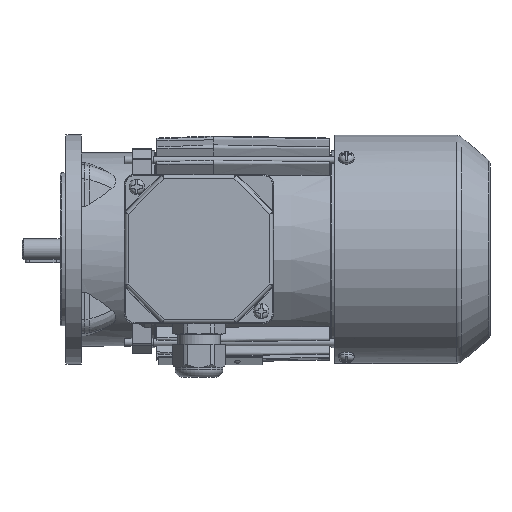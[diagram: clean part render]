
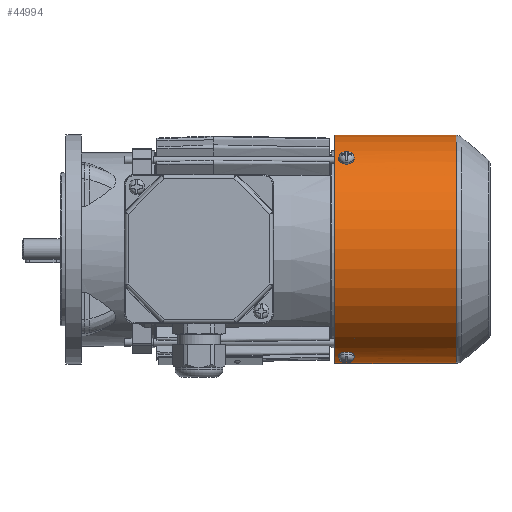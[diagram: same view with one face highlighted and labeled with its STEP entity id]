
A CAD part, top view. The second image highlights one B-rep face of the part: STEP entity #44994.
In plain terms, the highlighted cylindrical face has radius 59.6 mm (diameter 119.2 mm), a full revolution.
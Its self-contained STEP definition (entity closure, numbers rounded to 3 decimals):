
#1020=CYLINDRICAL_SURFACE('',#47692,59.6);
#1490=B_SPLINE_CURVE_WITH_KNOTS('',3,(#67461,#67462,#67463,#67464,#67465,
#67466,#67467),.UNSPECIFIED.,.F.,.F.,(4,1,1,1,4),(0.,
0.002,0.004,0.006,0.007),
 .UNSPECIFIED.);
#1491=B_SPLINE_CURVE_WITH_KNOTS('',3,(#67469,#67470,#67471,#67472,#67473,
#67474,#67475),.UNSPECIFIED.,.F.,.F.,(4,1,1,1,4),(0.,
0.002,0.004,0.006,0.007),
 .UNSPECIFIED.);
#1492=B_SPLINE_CURVE_WITH_KNOTS('',3,(#67481,#67482,#67483,#67484,#67485,
#67486,#67487),.UNSPECIFIED.,.F.,.F.,(4,1,1,1,4),(0.,0.002,
0.004,0.006,0.008),
 .UNSPECIFIED.);
#1493=B_SPLINE_CURVE_WITH_KNOTS('',3,(#67495,#67496,#67497,#67498,#67499,
#67500,#67501),.UNSPECIFIED.,.F.,.F.,(4,1,1,1,4),(0.,
0.002,0.004,0.006,0.008),
 .UNSPECIFIED.);
#1494=B_SPLINE_CURVE_WITH_KNOTS('',3,(#67512,#67513,#67514,#67515,#67516,
#67517,#67518),.UNSPECIFIED.,.F.,.F.,(4,1,1,1,4),(0.,0.002,
0.004,0.006,0.008),
 .UNSPECIFIED.);
#1495=B_SPLINE_CURVE_WITH_KNOTS('',3,(#67526,#67527,#67528,#67529,#67530,
#67531,#67532),.UNSPECIFIED.,.F.,.F.,(4,1,1,1,4),(0.,0.002,
0.004,0.006,0.008),
 .UNSPECIFIED.);
#2896=CIRCLE('',#47574,59.6);
#2897=CIRCLE('',#47577,59.6);
#2898=CIRCLE('',#47579,59.6);
#2899=CIRCLE('',#47582,59.6);
#2900=CIRCLE('',#47585,59.6);
#2949=CIRCLE('',#47693,59.6);
#9729=ORIENTED_EDGE('',*,*,#16189,.T.);
#9730=ORIENTED_EDGE('',*,*,#16187,.T.);
#9731=ORIENTED_EDGE('',*,*,#16185,.T.);
#9732=ORIENTED_EDGE('',*,*,#16190,.T.);
#9733=ORIENTED_EDGE('',*,*,#16172,.F.);
#9734=ORIENTED_EDGE('',*,*,#16173,.F.);
#9735=ORIENTED_EDGE('',*,*,#16180,.T.);
#9736=ORIENTED_EDGE('',*,*,#16178,.T.);
#9737=ORIENTED_EDGE('',*,*,#16176,.T.);
#9738=ORIENTED_EDGE('',*,*,#16181,.T.);
#9739=ORIENTED_EDGE('',*,*,#16326,.F.);
#9740=ORIENTED_EDGE('',*,*,#16182,.T.);
#16172=EDGE_CURVE('',#19946,#19945,#1490,.T.);
#16173=EDGE_CURVE('',#19945,#19946,#1491,.T.);
#16176=EDGE_CURVE('',#19986,#19987,#1492,.T.);
#16178=EDGE_CURVE('',#19988,#19986,#2896,.F.);
#16180=EDGE_CURVE('',#19989,#19988,#1493,.T.);
#16181=EDGE_CURVE('',#19987,#19989,#2897,.F.);
#16182=EDGE_CURVE('',#19990,#19990,#2898,.F.);
#16185=EDGE_CURVE('',#19991,#19992,#1494,.T.);
#16187=EDGE_CURVE('',#19993,#19991,#2899,.F.);
#16189=EDGE_CURVE('',#19994,#19993,#1495,.T.);
#16190=EDGE_CURVE('',#19992,#19994,#2900,.F.);
#16326=EDGE_CURVE('',#20105,#20105,#2949,.T.);
#19945=VERTEX_POINT('',#67316);
#19946=VERTEX_POINT('',#67317);
#19986=VERTEX_POINT('',#67478);
#19987=VERTEX_POINT('',#67480);
#19988=VERTEX_POINT('',#67490);
#19989=VERTEX_POINT('',#67494);
#19990=VERTEX_POINT('',#67506);
#19991=VERTEX_POINT('',#67509);
#19992=VERTEX_POINT('',#67511);
#19993=VERTEX_POINT('',#67521);
#19994=VERTEX_POINT('',#67525);
#20105=VERTEX_POINT('',#67916);
#27254=EDGE_LOOP('',(#9729,#9730,#9731,#9732));
#27255=EDGE_LOOP('',(#9733,#9734));
#27256=EDGE_LOOP('',(#9735,#9736,#9737,#9738));
#27257=EDGE_LOOP('',(#9739));
#27258=EDGE_LOOP('',(#9740));
#29445=FACE_BOUND('',#27254,.T.);
#29446=FACE_BOUND('',#27255,.T.);
#29447=FACE_BOUND('',#27256,.T.);
#29448=FACE_BOUND('',#27257,.T.);
#29449=FACE_BOUND('',#27258,.T.);
#44994=ADVANCED_FACE('',(#29445,#29446,#29447,#29448,#29449),#1020,.T.);
#47574=AXIS2_PLACEMENT_3D('',#67491,#54563,#54564);
#47577=AXIS2_PLACEMENT_3D('',#67503,#54570,#54571);
#47579=AXIS2_PLACEMENT_3D('',#67505,#54574,#54575);
#47582=AXIS2_PLACEMENT_3D('',#67522,#54583,#54584);
#47585=AXIS2_PLACEMENT_3D('',#67534,#54590,#54591);
#47692=AXIS2_PLACEMENT_3D('',#67914,#54867,#54868);
#47693=AXIS2_PLACEMENT_3D('',#67915,#54869,#54870);
#54563=DIRECTION('',(-1.,0.,0.));
#54564=DIRECTION('',(0.,0.866,-0.5));
#54570=DIRECTION('',(1.,0.,0.));
#54571=DIRECTION('',(0.,-0.866,0.5));
#54574=DIRECTION('',(1.,0.,0.));
#54575=DIRECTION('',(0.,0.,-1.));
#54583=DIRECTION('',(-1.,0.,0.));
#54584=DIRECTION('',(0.,0.,1.));
#54590=DIRECTION('',(1.,0.,0.));
#54591=DIRECTION('',(0.,0.,-1.));
#54867=DIRECTION('',(-1.,0.,0.));
#54868=DIRECTION('',(0.,0.,1.));
#54869=DIRECTION('',(-1.,0.,0.));
#54870=DIRECTION('',(0.,0.,1.));
#67316=CARTESIAN_POINT('',(67.,8.295,-59.02));
#67317=CARTESIAN_POINT('',(72.,8.295,-59.02));
#67461=CARTESIAN_POINT('',(72.,8.295,-59.02));
#67462=CARTESIAN_POINT('',(71.937,7.681,-59.106));
#67463=CARTESIAN_POINT('',(71.356,6.499,-59.249));
#67464=CARTESIAN_POINT('',(69.502,5.777,-59.318));
#67465=CARTESIAN_POINT('',(67.649,6.493,-59.25));
#67466=CARTESIAN_POINT('',(67.063,7.681,-59.106));
#67467=CARTESIAN_POINT('',(67.,8.295,-59.02));
#67469=CARTESIAN_POINT('',(67.,8.295,-59.02));
#67470=CARTESIAN_POINT('',(67.063,8.908,-58.934));
#67471=CARTESIAN_POINT('',(67.644,10.084,-58.746));
#67472=CARTESIAN_POINT('',(69.498,10.797,-58.613));
#67473=CARTESIAN_POINT('',(71.351,10.09,-58.745));
#67474=CARTESIAN_POINT('',(71.937,8.908,-58.934));
#67475=CARTESIAN_POINT('',(72.,8.295,-59.02));
#67478=CARTESIAN_POINT('',(72.,46.437,37.36));
#67480=CARTESIAN_POINT('',(67.,46.437,37.36));
#67481=CARTESIAN_POINT('',(72.,46.437,37.36));
#67482=CARTESIAN_POINT('',(72.,46.023,37.874));
#67483=CARTESIAN_POINT('',(71.458,45.191,38.867));
#67484=CARTESIAN_POINT('',(69.502,44.648,39.479));
#67485=CARTESIAN_POINT('',(67.542,45.19,38.869));
#67486=CARTESIAN_POINT('',(67.,46.023,37.874));
#67487=CARTESIAN_POINT('',(67.,46.437,37.36));
#67490=CARTESIAN_POINT('',(72.,47.484,36.02));
#67491=CARTESIAN_POINT('',(72.,0.,0.));
#67494=CARTESIAN_POINT('',(67.,47.484,36.02));
#67495=CARTESIAN_POINT('',(67.,47.484,36.02));
#67496=CARTESIAN_POINT('',(67.,47.883,35.493));
#67497=CARTESIAN_POINT('',(67.542,48.645,34.446));
#67498=CARTESIAN_POINT('',(69.498,49.108,33.771));
#67499=CARTESIAN_POINT('',(71.458,48.646,34.444));
#67500=CARTESIAN_POINT('',(72.,47.883,35.493));
#67501=CARTESIAN_POINT('',(72.,47.484,36.02));
#67503=CARTESIAN_POINT('',(67.,0.,0.));
#67505=CARTESIAN_POINT('',(126.809,0.,0.));
#67506=CARTESIAN_POINT('',(126.809,0.,-59.6));
#67509=CARTESIAN_POINT('',(72.,-55.573,21.536));
#67511=CARTESIAN_POINT('',(67.,-55.573,21.536));
#67512=CARTESIAN_POINT('',(72.,-55.573,21.536));
#67513=CARTESIAN_POINT('',(72.,-55.812,20.92));
#67514=CARTESIAN_POINT('',(71.458,-56.255,19.703));
#67515=CARTESIAN_POINT('',(69.502,-56.514,18.927));
#67516=CARTESIAN_POINT('',(67.542,-56.256,19.701));
#67517=CARTESIAN_POINT('',(67.,-55.812,20.92));
#67518=CARTESIAN_POINT('',(67.,-55.573,21.536));
#67521=CARTESIAN_POINT('',(72.,-54.936,23.112));
#67522=CARTESIAN_POINT('',(72.,0.,0.));
#67525=CARTESIAN_POINT('',(67.,-54.936,23.112));
#67526=CARTESIAN_POINT('',(67.,-54.936,23.112));
#67527=CARTESIAN_POINT('',(67.,-54.68,23.721));
#67528=CARTESIAN_POINT('',(67.542,-54.154,24.905));
#67529=CARTESIAN_POINT('',(69.498,-53.8,25.643));
#67530=CARTESIAN_POINT('',(71.458,-54.153,24.907));
#67531=CARTESIAN_POINT('',(72.,-54.68,23.721));
#67532=CARTESIAN_POINT('',(72.,-54.936,23.112));
#67534=CARTESIAN_POINT('',(67.,0.,0.));
#67914=CARTESIAN_POINT('',(3.5,0.,0.));
#67915=CARTESIAN_POINT('',(63.5,0.,0.));
#67916=CARTESIAN_POINT('',(63.5,0.,59.6));
